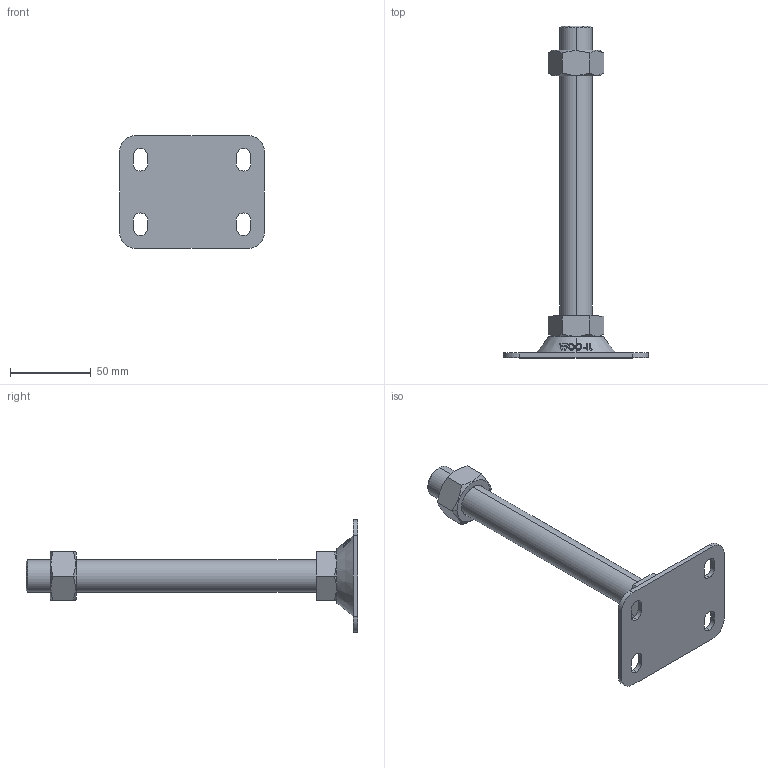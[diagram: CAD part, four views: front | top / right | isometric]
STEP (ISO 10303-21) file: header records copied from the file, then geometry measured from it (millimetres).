
FILE_DESCRIPTION (( 'STEP AP214' ), '1' );
FILE_NAME ('FABL7090-M20-180.step', '2021-03-28T23:52:42', ( '' ), ( '' ), 'SwSTEP 2.0', 'SolidWorks 2019', '' );
FILE_SCHEMA (( 'AUTOMOTIVE_DESIGN' ));
Length unit declared in the file: millimetre
Products named in the file (2): FABL7090-M20-180
Bounding box: 90 x 206 x 70 mm (x, y, z)
Volume: 105197.1 mm3; surface area: 29904.6 mm2
Topology: 2 solids, 2 shells, 146 faces, 384 edges, 252 vertices
Faces by surface type: plane 58, cylinder 48, cone 22, bspline 18
Entity records: 6096 total; most frequent: CARTESIAN_POINT 2668, ORIENTED_EDGE 768, DIRECTION 582, EDGE_CURVE 384, VERTEX_POINT 252, AXIS2_PLACEMENT_3D 210, EDGE_LOOP 166, LINE 162
